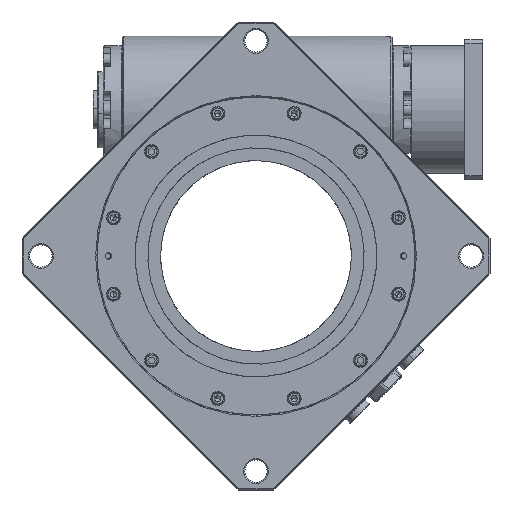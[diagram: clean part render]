
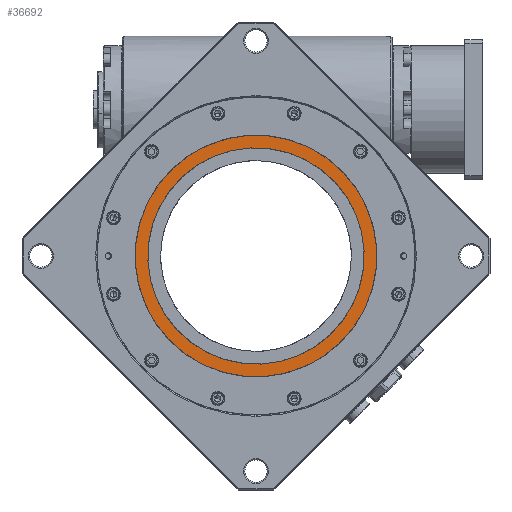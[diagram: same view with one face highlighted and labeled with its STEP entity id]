
A CAD part, front view. The second image highlights one B-rep face of the part: STEP entity #36692.
In plain terms, the highlighted planar face has unit normal (0, -1, 0).
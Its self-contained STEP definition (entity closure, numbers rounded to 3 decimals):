
#67 = DIRECTION ( 'NONE',  ( 0., -1., 0. ) ) ;
#1708 = DIRECTION ( 'NONE',  ( -0.541, 0., 0.841 ) ) ;
#2163 = DIRECTION ( 'NONE',  ( -0.541, 0., 0.841 ) ) ;
#4802 = EDGE_CURVE ( 'NONE', #71609, #50115, #49540, .T. ) ;
#4855 = DIRECTION ( 'NONE',  ( -0.541, 0., 0.841 ) ) ;
#10871 = CARTESIAN_POINT ( 'NONE',  ( 0., 1., 0. ) ) ;
#11576 = ORIENTED_EDGE ( 'NONE', *, *, #53976, .T. ) ;
#14198 = FACE_OUTER_BOUND ( 'NONE', #27823, .T. ) ;
#14917 = DIRECTION ( 'NONE',  ( 0., -1., 0. ) ) ;
#16020 = CARTESIAN_POINT ( 'NONE',  ( 51.416, 1., -79.884 ) ) ;
#18967 = CARTESIAN_POINT ( 'NONE',  ( 0., 1., 0. ) ) ;
#19463 = VERTEX_POINT ( 'NONE', #54116 ) ;
#20199 = DIRECTION ( 'NONE',  ( 0., -1., 0. ) ) ;
#21520 = CARTESIAN_POINT ( 'NONE',  ( 46.004, 1., -71.475 ) ) ;
#23922 = ORIENTED_EDGE ( 'NONE', *, *, #60692, .T. ) ;
#25971 = CARTESIAN_POINT ( 'NONE',  ( -46.004, 1., 71.475 ) ) ;
#26228 = PLANE ( 'NONE',  #31400 ) ;
#27823 = EDGE_LOOP ( 'NONE', ( #11576, #23922 ) ) ;
#28404 = AXIS2_PLACEMENT_3D ( 'NONE', #10871, #67, #4855 ) ;
#30192 = EDGE_CURVE ( 'NONE', #50115, #71609, #64862, .T. ) ;
#30417 = AXIS2_PLACEMENT_3D ( 'NONE', #18967, #54114, #72378 ) ;
#31400 = AXIS2_PLACEMENT_3D ( 'NONE', #69622, #20199, #2163 ) ;
#35038 = ORIENTED_EDGE ( 'NONE', *, *, #4802, .F. ) ;
#36692 = ADVANCED_FACE ( 'NONE', ( #14198, #62928 ), #26228, .T. ) ;
#36717 = AXIS2_PLACEMENT_3D ( 'NONE', #75152, #14917, #1708 ) ;
#45409 = DIRECTION ( 'NONE',  ( 0., -1., 0. ) ) ;
#49540 = CIRCLE ( 'NONE', #36717, 85. ) ;
#50115 = VERTEX_POINT ( 'NONE', #25971 ) ;
#50525 = EDGE_LOOP ( 'NONE', ( #58574, #35038 ) ) ;
#51392 = VERTEX_POINT ( 'NONE', #16020 ) ;
#53976 = EDGE_CURVE ( 'NONE', #19463, #51392, #62828, .T. ) ;
#54114 = DIRECTION ( 'NONE',  ( 0., -1., 0. ) ) ;
#54116 = CARTESIAN_POINT ( 'NONE',  ( -51.416, 1., 79.884 ) ) ;
#58574 = ORIENTED_EDGE ( 'NONE', *, *, #30192, .F. ) ;
#60692 = EDGE_CURVE ( 'NONE', #51392, #19463, #61550, .T. ) ;
#61550 = CIRCLE ( 'NONE', #76682, 95. ) ;
#62828 = CIRCLE ( 'NONE', #28404, 95. ) ;
#62928 = FACE_BOUND ( 'NONE', #50525, .T. ) ;
#64862 = CIRCLE ( 'NONE', #30417, 85. ) ;
#69622 = CARTESIAN_POINT ( 'NONE',  ( 79.884, 1., 51.416 ) ) ;
#69690 = DIRECTION ( 'NONE',  ( -0.541, 0., 0.841 ) ) ;
#71609 = VERTEX_POINT ( 'NONE', #21520 ) ;
#72378 = DIRECTION ( 'NONE',  ( -0.541, 0., 0.841 ) ) ;
#75152 = CARTESIAN_POINT ( 'NONE',  ( 0., 1., 0. ) ) ;
#75678 = CARTESIAN_POINT ( 'NONE',  ( 0., 1., 0. ) ) ;
#76682 = AXIS2_PLACEMENT_3D ( 'NONE', #75678, #45409, #69690 ) ;
